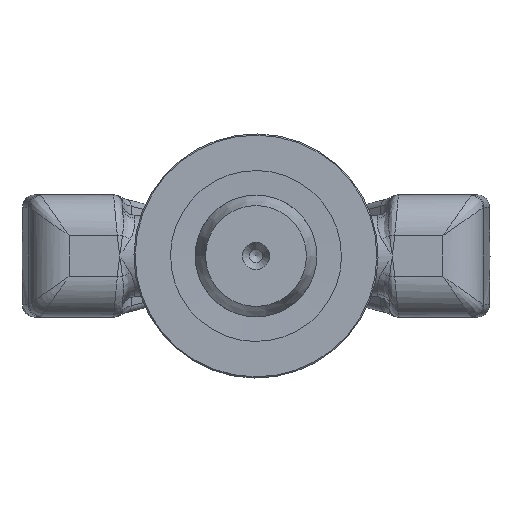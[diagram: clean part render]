
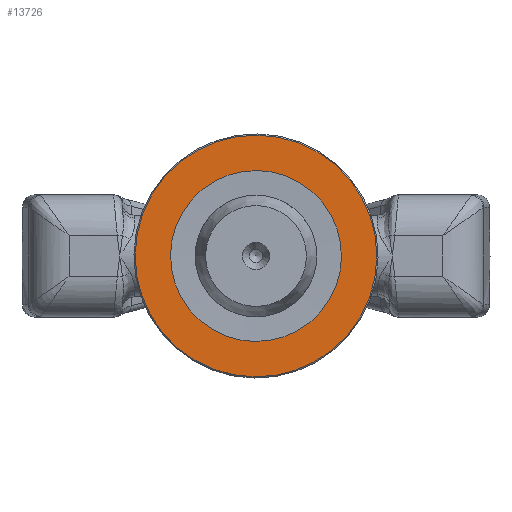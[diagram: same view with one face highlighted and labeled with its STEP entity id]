
A CAD part, front view. The second image highlights one B-rep face of the part: STEP entity #13726.
In plain terms, the highlighted planar face has unit normal (0, -1, 0) as drawn and (0, 0, -1) by its records, which use the part's own axes.
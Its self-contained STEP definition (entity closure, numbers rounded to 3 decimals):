
#300=FACE_BOUND('',#4330,.T.);
#695=PLANE('',#14748);
#3458=FACE_OUTER_BOUND('',#4329,.T.);
#4329=EDGE_LOOP('',(#12906));
#4330=EDGE_LOOP('',(#12907));
#4677=CIRCLE('',#14745,29.7);
#4679=CIRCLE('',#14749,21.);
#6739=VERTEX_POINT('',#45818);
#6741=VERTEX_POINT('',#45824);
#8798=EDGE_CURVE('',#6739,#6739,#4677,.T.);
#8800=EDGE_CURVE('',#6741,#6741,#4679,.T.);
#12906=ORIENTED_EDGE('',*,*,#8798,.F.);
#12907=ORIENTED_EDGE('',*,*,#8800,.F.);
#13726=ADVANCED_FACE('',(#3458,#300),#695,.F.);
#14745=AXIS2_PLACEMENT_3D('',#45819,#17399,#17400);
#14748=AXIS2_PLACEMENT_3D('',#45823,#17405,#17406);
#14749=AXIS2_PLACEMENT_3D('',#45825,#17407,#17408);
#17399=DIRECTION('center_axis',(0.,0.,1.));
#17400=DIRECTION('ref_axis',(-1.,0.,0.));
#17405=DIRECTION('center_axis',(0.,0.,1.));
#17406=DIRECTION('ref_axis',(1.,0.,0.));
#17407=DIRECTION('center_axis',(0.,0.,-1.));
#17408=DIRECTION('ref_axis',(-1.,0.,0.));
#45818=CARTESIAN_POINT('',(29.7,0.,0.));
#45819=CARTESIAN_POINT('Origin',(0.,0.,0.));
#45823=CARTESIAN_POINT('Origin',(0.,0.,0.));
#45824=CARTESIAN_POINT('',(21.,0.,0.));
#45825=CARTESIAN_POINT('Origin',(0.,0.,0.));
